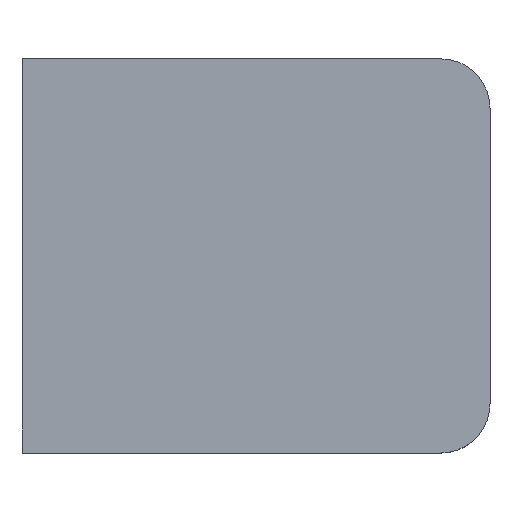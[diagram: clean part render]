
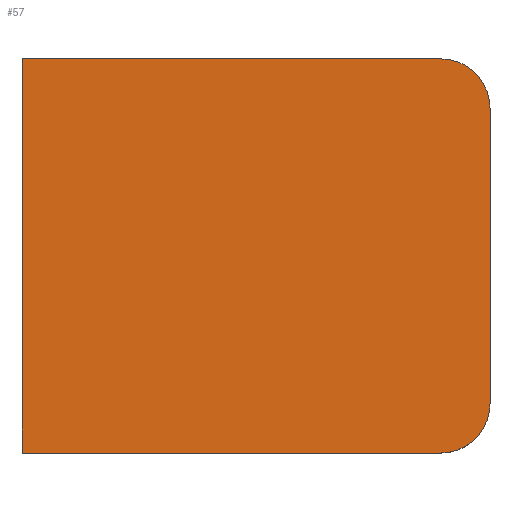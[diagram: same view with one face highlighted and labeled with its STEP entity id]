
A CAD part, top view. The second image highlights one B-rep face of the part: STEP entity #57.
In plain terms, the highlighted planar face has unit normal (0, 0, 1).
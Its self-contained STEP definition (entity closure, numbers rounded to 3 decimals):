
#21 = EDGE_CURVE('',#22,#24,#26,.T.);
#22 = VERTEX_POINT('',#23);
#23 = CARTESIAN_POINT('',(0.,-8.,0.));
#24 = VERTEX_POINT('',#25);
#25 = CARTESIAN_POINT('',(17.,-8.,0.));
#26 = LINE('',#27,#28);
#27 = CARTESIAN_POINT('',(0.,-8.,0.));
#28 = VECTOR('',#29,1.);
#29 = DIRECTION('',(1.,0.,0.));
#57 = ADVANCED_FACE('',(#58),#101,.T.);
#58 = FACE_BOUND('',#59,.T.);
#59 = EDGE_LOOP('',(#60,#61,#70,#78,#87,#95));
#60 = ORIENTED_EDGE('',*,*,#21,.T.);
#61 = ORIENTED_EDGE('',*,*,#62,.T.);
#62 = EDGE_CURVE('',#24,#63,#65,.T.);
#63 = VERTEX_POINT('',#64);
#64 = CARTESIAN_POINT('',(19.,-6.,0.));
#65 = CIRCLE('',#66,2.);
#66 = AXIS2_PLACEMENT_3D('',#67,#68,#69);
#67 = CARTESIAN_POINT('',(17.,-6.,0.));
#68 = DIRECTION('',(0.,-0.,1.));
#69 = DIRECTION('',(0.,1.,0.));
#70 = ORIENTED_EDGE('',*,*,#71,.T.);
#71 = EDGE_CURVE('',#63,#72,#74,.T.);
#72 = VERTEX_POINT('',#73);
#73 = CARTESIAN_POINT('',(19.,6.,0.));
#74 = LINE('',#75,#76);
#75 = CARTESIAN_POINT('',(19.,-8.,0.));
#76 = VECTOR('',#77,1.);
#77 = DIRECTION('',(0.,1.,0.));
#78 = ORIENTED_EDGE('',*,*,#79,.T.);
#79 = EDGE_CURVE('',#72,#80,#82,.T.);
#80 = VERTEX_POINT('',#81);
#81 = CARTESIAN_POINT('',(17.,8.,0.));
#82 = CIRCLE('',#83,2.);
#83 = AXIS2_PLACEMENT_3D('',#84,#85,#86);
#84 = CARTESIAN_POINT('',(17.,6.,0.));
#85 = DIRECTION('',(0.,-0.,1.));
#86 = DIRECTION('',(0.,1.,0.));
#87 = ORIENTED_EDGE('',*,*,#88,.T.);
#88 = EDGE_CURVE('',#80,#89,#91,.T.);
#89 = VERTEX_POINT('',#90);
#90 = CARTESIAN_POINT('',(0.,8.,0.));
#91 = LINE('',#92,#93);
#92 = CARTESIAN_POINT('',(19.,8.,0.));
#93 = VECTOR('',#94,1.);
#94 = DIRECTION('',(-1.,0.,0.));
#95 = ORIENTED_EDGE('',*,*,#96,.T.);
#96 = EDGE_CURVE('',#89,#22,#97,.T.);
#97 = LINE('',#98,#99);
#98 = CARTESIAN_POINT('',(0.,8.,0.));
#99 = VECTOR('',#100,1.);
#100 = DIRECTION('',(0.,-1.,0.));
#101 = PLANE('',#102);
#102 = AXIS2_PLACEMENT_3D('',#103,#104,#105);
#103 = CARTESIAN_POINT('',(9.5,0.,0.));
#104 = DIRECTION('',(0.,0.,1.));
#105 = DIRECTION('',(1.,0.,0.));
